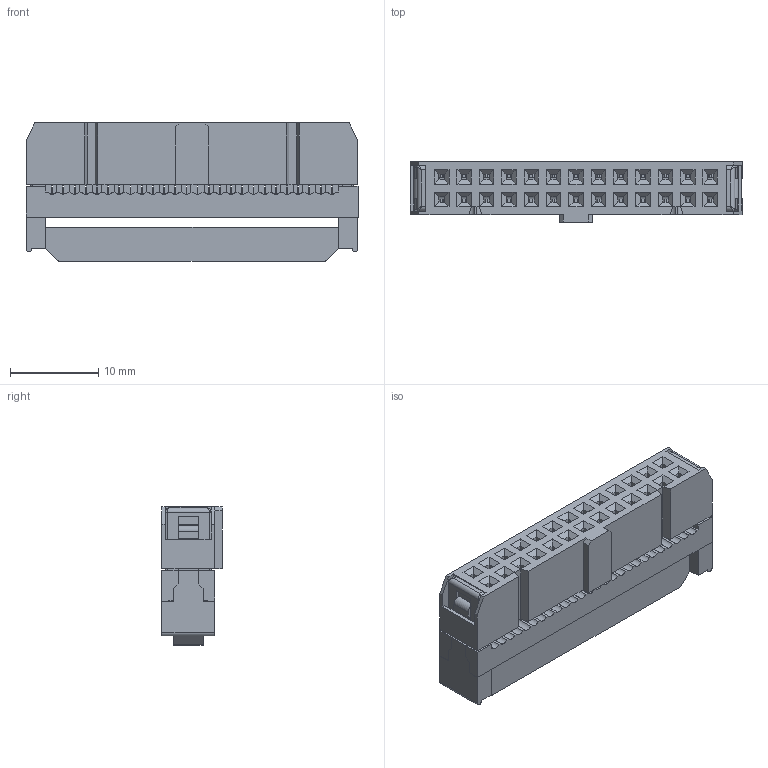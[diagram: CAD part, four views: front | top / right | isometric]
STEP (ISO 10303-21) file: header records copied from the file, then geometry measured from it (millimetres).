
FILE_DESCRIPTION(('FreeCAD Model'),'2;1');
FILE_NAME('C:/Users/Metaltex-99/Desktop/L-26.stp','2020-12-09T08:26:28', ('Engenharia Metaltex'),('Metaltex'),'Open CASCADE STEP processor 7.3' ,'FreeCAD','Unknown');
FILE_SCHEMA(('AUTOMOTIVE_DESIGN { 1 0 10303 214 1 1 1 1 }'));
Length unit declared in the file: millimetre
Products named in the file (4): L-26; 2; 3; 1
Assembly tree (3 placements, depth 2):
  L-26
    2
    3
    1
Bounding box: 37.7 x 6.86 x 15.7 mm (x, y, z)
Volume: 1207.5 mm3; surface area: 4791.2 mm2
Topology: 2 solids, 29 shells, 1581 faces, 4343 edges, 2814 vertices
Faces by surface type: plane 1201, cylinder 354, extrusion 14, bspline 4, sphere 4, torus 4
Entity records: 108178 total; most frequent: CARTESIAN_POINT 20103, DIRECTION 16554, VECTOR 11348, LINE 11334, ORIENTED_EDGE 8678, PCURVE 8678, DEFINITIONAL_REPRESENTATION 8678, EDGE_CURVE 4339
